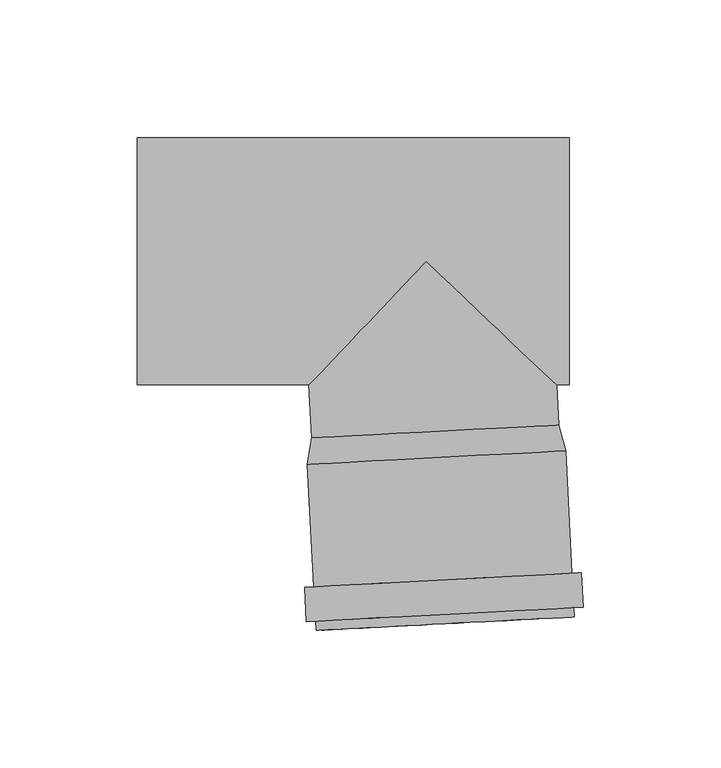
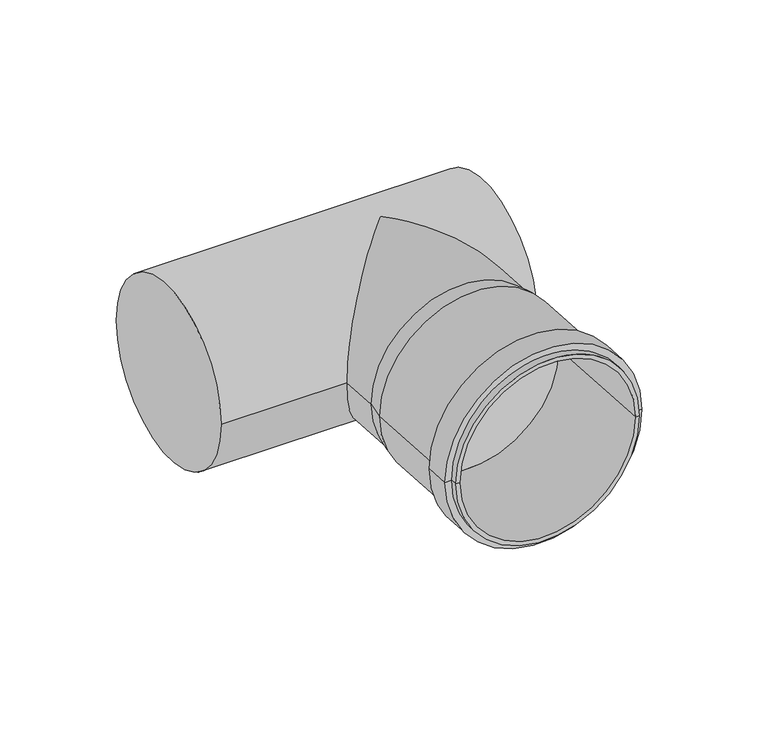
"""IFC4 building model written with IfcOpenShell, lengths in millimetres: pipe fitting geometry, pf_HTEA : pf_HTEA."""

from ifc_helpers import new_model, si_unit, frame, origin, place, context, project, spatial, polyline, circle_curve, ellipse_curve, source, transform, mapped, element, save
from ifc_brep_helpers import plane_surface, cylinder_surface, revolved_surface, advanced_brep


def pipe_fitting_aed6ab42(model_context):
    return source(origin(), model_context, "Body", "AdvancedBrep", [
        advanced_brep(
        [(-41.6934998, -64.2701492, 0.0), (48.1831584, -59.5599131, 0.0), (50.677609, -68.9422218, 0.0), (-43.1935673, -73.8618017, 0.0), (3.2448293, -61.9150312, 0.0), (-40.0272419, -134.2788885, 0.0), (53.8439344, -129.3593086, 0.0), (51.8466753, -129.4639806, 0.0), (-38.0299828, -134.1742166, 0.0), (-40.2051842, -130.8835481, 0.0), (53.6659921, -125.9639682, 0.0), (-43.6005246, -131.0614904, 0.0), (57.0613325, -125.786026, 0.0), (-44.254724, -118.5786212, 0.0), (56.4071331, -113.3031568, 0.0), (-40.8593836, -118.4006789, 0.0), (53.0117927, -113.481099, 0.0), (-41.1963082, -73.7571298, 0.0), (48.6803499, -69.0468937, 0.0), (3.7420209, -71.4020117, 0.0)],
        [
            (0, 1, circle_curve(frame((3.2448293, -61.9150312, 0.0), z_axis=(0.0523359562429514, -0.9986295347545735, 0.0), x_axis=(0.9986295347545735, 0.0523359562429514, 0.0)), 45.0)),
            (1, 2),
            (2, 3, circle_curve(frame((3.7420209, -71.4020117, 0.0), z_axis=(-0.0523359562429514, 0.9986295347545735, 0.0), x_axis=(0.9986295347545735, 0.0523359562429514, 0.0)), 47.0)),
            (3, 0),
            (1, 0, circle_curve(frame((3.2448293, -61.9150312, 0.0), z_axis=(0.0523359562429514, -0.9986295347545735, 0.0), x_axis=(0.9986295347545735, 0.0523359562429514, 0.0)), 45.0)),
            (3, 2, circle_curve(frame((3.7420209, -71.4020117, 0.0), z_axis=(-0.0523359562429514, 0.9986295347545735, 0.0), x_axis=(0.9986295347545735, 0.0523359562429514, 0.0)), 47.0)),
            (4, 1),
            (0, 4),
            (5, 6, circle_curve(frame((6.9083462, -131.8190986, 0.0), z_axis=(0.0523359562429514, -0.9986295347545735, 0.0), x_axis=(0.9986295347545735, 0.0523359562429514, 0.0)), 47.0)),
            (6, 7),
            (7, 8, circle_curve(frame((6.9083462, -131.8190986, 0.0), z_axis=(-0.0523359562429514, 0.9986295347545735, 0.0), x_axis=(0.9986295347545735, 0.0523359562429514, 0.0)), 45.0)),
            (8, 5),
            (6, 5, circle_curve(frame((6.9083462, -131.8190986, 0.0), z_axis=(0.0523359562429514, -0.9986295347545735, 0.0), x_axis=(0.9986295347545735, 0.0523359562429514, 0.0)), 47.0)),
            (8, 7, circle_curve(frame((6.9083462, -131.8190986, 0.0), z_axis=(-0.0523359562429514, 0.9986295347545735, 0.0), x_axis=(0.9986295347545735, 0.0523359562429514, 0.0)), 45.0)),
            (9, 10, circle_curve(frame((6.730404, -128.4237582, 0.0), z_axis=(0.0523359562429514, -0.9986295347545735, 0.0), x_axis=(0.9986295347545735, 0.0523359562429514, 0.0)), 47.0)),
            (10, 6),
            (5, 9),
            (10, 9, circle_curve(frame((6.730404, -128.4237582, 0.0), z_axis=(0.0523359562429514, -0.9986295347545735, 0.0), x_axis=(0.9986295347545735, 0.0523359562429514, 0.0)), 47.0)),
            (11, 12, circle_curve(frame((6.730404, -128.4237582, 0.0), z_axis=(0.0523359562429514, -0.9986295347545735, 0.0), x_axis=(0.9986295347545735, 0.0523359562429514, 0.0)), 50.4)),
            (12, 10),
            (9, 11),
            (12, 11, circle_curve(frame((6.730404, -128.4237582, 0.0), z_axis=(0.0523359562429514, -0.9986295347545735, 0.0), x_axis=(0.9986295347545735, 0.0523359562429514, 0.0)), 50.4)),
            (13, 14, circle_curve(frame((6.0762045, -115.940889, 0.0), z_axis=(0.0523359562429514, -0.9986295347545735, 0.0), x_axis=(0.9986295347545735, 0.0523359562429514, 0.0)), 50.4)),
            (14, 12),
            (11, 13),
            (14, 13, circle_curve(frame((6.0762045, -115.940889, 0.0), z_axis=(0.0523359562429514, -0.9986295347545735, 0.0), x_axis=(0.9986295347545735, 0.0523359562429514, 0.0)), 50.4)),
            (15, 16, circle_curve(frame((6.0762045, -115.940889, 0.0), z_axis=(0.0523359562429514, -0.9986295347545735, 0.0), x_axis=(0.9986295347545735, 0.0523359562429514, 0.0)), 47.0)),
            (16, 14),
            (13, 15),
            (16, 15, circle_curve(frame((6.0762045, -115.940889, 0.0), z_axis=(0.0523359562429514, -0.9986295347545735, 0.0), x_axis=(0.9986295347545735, 0.0523359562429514, 0.0)), 47.0)),
            (2, 16),
            (15, 3),
            (17, 18, circle_curve(frame((3.7420209, -71.4020117, 0.0), z_axis=(0.0523359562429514, -0.9986295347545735, 0.0), x_axis=(0.9986295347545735, 0.0523359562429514, 0.0)), 45.0)),
            (18, 19),
            (19, 17),
            (18, 17, circle_curve(frame((3.7420209, -71.4020117, 0.0), z_axis=(0.0523359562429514, -0.9986295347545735, 0.0), x_axis=(0.9986295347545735, 0.0523359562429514, 0.0)), 45.0)),
            (7, 18),
            (17, 8),
        ],
        [
            revolved_surface(polyline([(50.677609, -68.9422218, 0.0), (48.1831584, -59.5599131, 0.0)]), (3.2448293, -61.9150312, 0.0), (-0.0523359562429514, 0.9986295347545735, 0.0)),
            plane_surface(frame((3.2448293, -61.9150312, 0.0), z_axis=(-0.0523359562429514, 0.9986295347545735, 0.0), x_axis=(0.9986295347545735, 0.0523359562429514, 0.0))),
            plane_surface(frame((6.9083462, -131.8190986, 0.0), z_axis=(0.0523359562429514, -0.9986295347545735, 0.0), x_axis=(0.9986295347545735, 0.0523359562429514, 0.0))),
            cylinder_surface(frame((3.2448293, -61.9150312, 0.0), z_axis=(-0.0523359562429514, 0.9986295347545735, 0.0), x_axis=(0.9986295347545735, 0.0523359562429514, 0.0)), 47.0),
            plane_surface(frame((6.730404, -128.4237582, 0.0), z_axis=(0.0523359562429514, -0.9986295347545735, 0.0), x_axis=(0.9986295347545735, 0.0523359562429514, 0.0))),
            cylinder_surface(frame((3.2448293, -61.9150312, 0.0), z_axis=(-0.0523359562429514, 0.9986295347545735, 0.0), x_axis=(0.9986295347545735, 0.0523359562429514, 0.0)), 50.4),
            plane_surface(frame((6.0762045, -115.940889, 0.0), z_axis=(-0.0523359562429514, 0.9986295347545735, 0.0), x_axis=(0.9986295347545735, 0.0523359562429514, 0.0))),
            plane_surface(frame((3.7420209, -71.4020117, 0.0), z_axis=(0.0523359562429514, -0.9986295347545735, 0.0), x_axis=(0.9986295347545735, 0.0523359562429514, 0.0))),
            revolved_surface(polyline([(48.680349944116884, -69.0468936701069, 0.0), (51.84667530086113, -129.46398059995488, 0.0)]), (3.2448293, -61.9150312, 0.0), (-0.0523359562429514, 0.9986295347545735, 0.0)),
        ],
        [
            (0, [[1, 2, 3, 4]]),
            (0, [[5, -4, 6, -2]]),
            (1, [[7, -1, 8]]),
            (1, [[-8, -5, -7]]),
            (2, [[9, 10, 11, 12]]),
            (2, [[13, -12, 14, -10]]),
            (3, [[15, 16, -9, 17]]),
            (3, [[18, -17, -13, -16]]),
            (4, [[19, 20, -15, 21]]),
            (4, [[22, -21, -18, -20]]),
            (5, [[23, 24, -19, 25]]),
            (5, [[26, -25, -22, -24]]),
            (6, [[27, 28, -23, 29]]),
            (6, [[30, -29, -26, -28]]),
            (3, [[-3, 31, -27, 32]]),
            (3, [[-6, -32, -30, -31]]),
            (7, [[33, 34, 35]]),
            (7, [[36, -35, -34]]),
            (8, [[-11, 37, -33, 38]]),
            (8, [[-14, -38, -36, -37]]),
        ],
    ),
        advanced_brep(
        [(-41.6934998, -64.2701492, 0.0), (48.1831584, -59.5599131, 0.0), (-105.0, -45.0, 0.0), (-105.0, 45.0, 0.0), (52.0, -45.0, 0.0), (52.0, 45.0, 0.0), (-42.7034055, -45.0, 0.0), (0.0, 0.0, 45.0), (47.4201056, -45.0, 0.0), (0.0, 0.0, -45.0)],
        [
            (0, 1, circle_curve(frame((3.2448293, -61.9150312, 0.0), z_axis=(0.052335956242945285, -0.9986295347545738, 0.0), x_axis=(0.9986295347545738, 0.052335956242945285, 0.0)), 45.0)),
            (1, 0, circle_curve(frame((3.2448293, -61.9150312, 0.0), z_axis=(0.052335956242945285, -0.9986295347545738, 0.0), x_axis=(0.9986295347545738, 0.052335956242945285, 0.0)), 45.0)),
            (2, 3, circle_curve(frame((-105.0, 0.0, 0.0), z_axis=(-1.0, 0.0, 0.0), x_axis=(0.0, 1.0, 0.0)), 45.0)),
            (3, 2, circle_curve(frame((-105.0, 0.0, 0.0), z_axis=(-1.0, 0.0, 0.0), x_axis=(0.0, 1.0, 0.0)), 45.0)),
            (4, 5, circle_curve(frame((52.0, 0.0, 0.0), z_axis=(1.0, 0.0, 0.0), x_axis=(0.0, 1.0, 0.0)), 45.0)),
            (5, 4, circle_curve(frame((52.0, 0.0, 0.0), z_axis=(1.0, 0.0, 0.0), x_axis=(0.0, 1.0, 0.0)), 45.0)),
            (2, 6),
            (6, 7, ellipse_curve(frame((0.0, 0.0, 0.0), z_axis=(-0.7253743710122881, 0.6883545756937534, 0.0), x_axis=(-0.6883545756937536, -0.725374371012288, 0.0)), 62.0369313, 45.0)),
            (7, 8, ellipse_curve(frame((0.0, 0.0, 0.0), z_axis=(0.6883545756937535, 0.7253743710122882, 0.0), x_axis=(-0.7253743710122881, 0.6883545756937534, 0.0)), 65.3732852, 45.0)),
            (8, 4),
            (5, 3),
            (8, 9, ellipse_curve(frame((0.0, 0.0, 0.0), z_axis=(0.6883545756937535, 0.7253743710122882, 0.0), x_axis=(-0.7253743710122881, 0.6883545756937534, 0.0)), 65.3732852, 45.0)),
            (9, 6, ellipse_curve(frame((0.0, 0.0, 0.0), z_axis=(-0.7253743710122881, 0.6883545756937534, 0.0), x_axis=(-0.6883545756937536, -0.725374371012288, 0.0)), 62.0369313, 45.0)),
            (1, 8),
            (6, 0),
        ],
        [
            plane_surface(frame((3.2448293, -61.9150312, 0.0), z_axis=(0.0523359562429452, -0.9986295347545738, 0.0), x_axis=(0.0, 0.0, 1.0))),
            plane_surface(frame((-105.0, 0.0, 0.0), z_axis=(-1.0, 0.0, 0.0), x_axis=(0.0, 0.0, 1.0))),
            plane_surface(frame((52.0, 0.0, 0.0), z_axis=(1.0, 0.0, 0.0), x_axis=(0.0, 0.0, 1.0))),
            cylinder_surface(frame((-105.0, 0.0, 0.0), z_axis=(-1.0, 0.0, 0.0), x_axis=(0.0, 1.0, 0.0)), 45.0),
            cylinder_surface(frame((0.0, 0.0, 0.0), z_axis=(-0.052335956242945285, 0.9986295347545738, 0.0), x_axis=(0.9986295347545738, 0.052335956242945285, 0.0)), 45.0),
        ],
        [
            (0, [[1, 2]]),
            (1, [[3, 4]]),
            (2, [[5, 6]]),
            (3, [[-3, 7, 8, 9, 10, -6, 11]]),
            (3, [[-4, -11, -5, -10, 12, 13, -7]]),
            (4, [[-2, 14, -9, -8, 15]]),
            (4, [[-1, -15, -13, -12, -14]]),
        ],
    ),
    ])


if __name__ == "__main__":
    model = new_model("IFC4")
    model_context = context("Model", 3, world=origin())
    ifc_project = project(units=[si_unit("LENGTHUNIT", "METRE", prefix="MILLI")], contexts=[model_context])
    site = spatial("IfcSite", under=ifc_project)
    building = spatial("IfcBuilding", under=site)
    placement = place(None, origin())
    pipe_fitting_shape = pipe_fitting_aed6ab42(model_context)
    element("IfcPipeFitting", 1, ObjectType="pf_HTEA : pf_HTEA", at=placement, inside=building, context=model_context, shape_type="MappedRepresentation", body=[
        mapped(pipe_fitting_shape, transform((0.0, 0.0, 0.0), x_axis=(1.0, 0.0, 0.0), y_axis=(0.0, 1.0, 0.0), z_axis=(0.0, 0.0, 1.0))),
    ])
    save(model, "model.ifc")
